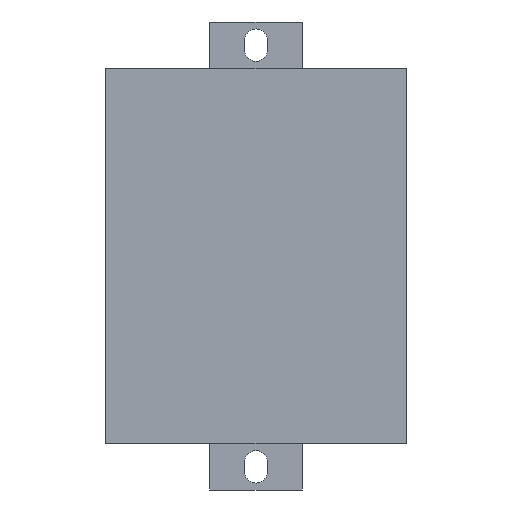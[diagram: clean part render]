
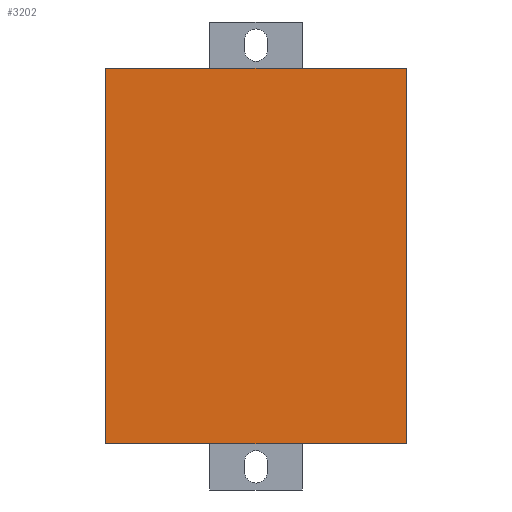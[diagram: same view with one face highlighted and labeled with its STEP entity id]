
A CAD part, front view. The second image highlights one B-rep face of the part: STEP entity #3202.
In plain terms, the highlighted planar face has unit normal (0, -1, 0).
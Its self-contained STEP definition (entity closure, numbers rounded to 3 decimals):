
#56=FACE_OUTER_BOUND('',#222,.T.);
#222=EDGE_LOOP('',(#2179,#2180,#2181,#2182,#2183,#2184,#2185,#2186));
#407=LINE('',#4457,#871);
#408=LINE('',#4459,#872);
#409=LINE('',#4461,#873);
#410=LINE('',#4463,#874);
#411=LINE('',#4465,#875);
#412=LINE('',#4467,#876);
#413=LINE('',#4469,#877);
#414=LINE('',#4470,#878);
#871=VECTOR('',#3644,10.);
#872=VECTOR('',#3645,10.);
#873=VECTOR('',#3646,10.);
#874=VECTOR('',#3647,10.);
#875=VECTOR('',#3648,10.);
#876=VECTOR('',#3649,10.);
#877=VECTOR('',#3650,10.);
#878=VECTOR('',#3651,10.);
#1327=VERTEX_POINT('',#4455);
#1328=VERTEX_POINT('',#4456);
#1329=VERTEX_POINT('',#4458);
#1330=VERTEX_POINT('',#4460);
#1331=VERTEX_POINT('',#4462);
#1332=VERTEX_POINT('',#4464);
#1333=VERTEX_POINT('',#4466);
#1334=VERTEX_POINT('',#4468);
#1659=EDGE_CURVE('',#1327,#1328,#407,.T.);
#1660=EDGE_CURVE('',#1328,#1329,#408,.T.);
#1661=EDGE_CURVE('',#1329,#1330,#409,.T.);
#1662=EDGE_CURVE('',#1330,#1331,#410,.T.);
#1663=EDGE_CURVE('',#1332,#1331,#411,.T.);
#1664=EDGE_CURVE('',#1333,#1332,#412,.T.);
#1665=EDGE_CURVE('',#1334,#1333,#413,.T.);
#1666=EDGE_CURVE('',#1327,#1334,#414,.T.);
#2179=ORIENTED_EDGE('',*,*,#1659,.T.);
#2180=ORIENTED_EDGE('',*,*,#1660,.T.);
#2181=ORIENTED_EDGE('',*,*,#1661,.T.);
#2182=ORIENTED_EDGE('',*,*,#1662,.T.);
#2183=ORIENTED_EDGE('',*,*,#1663,.F.);
#2184=ORIENTED_EDGE('',*,*,#1664,.F.);
#2185=ORIENTED_EDGE('',*,*,#1665,.F.);
#2186=ORIENTED_EDGE('',*,*,#1666,.F.);
#3040=PLANE('',#3397);
#3202=ADVANCED_FACE('',(#56),#3040,.T.);
#3397=AXIS2_PLACEMENT_3D('',#4454,#3642,#3643);
#3642=DIRECTION('center_axis',(0.,-1.,0.));
#3643=DIRECTION('ref_axis',(1.,0.,0.));
#3644=DIRECTION('',(-1.,0.,0.));
#3645=DIRECTION('',(-1.,0.,0.));
#3646=DIRECTION('',(-1.,0.,0.));
#3647=DIRECTION('',(0.,0.,-1.));
#3648=DIRECTION('',(-1.,0.,0.));
#3649=DIRECTION('',(-1.,0.,0.));
#3650=DIRECTION('',(-1.,0.,0.));
#3651=DIRECTION('',(0.,0.,-1.));
#4454=CARTESIAN_POINT('Origin',(-31.,-18.,0.));
#4455=CARTESIAN_POINT('',(32.5,-18.,40.5));
#4456=CARTESIAN_POINT('',(10.,-18.,40.5));
#4457=CARTESIAN_POINT('',(-31.,-18.,40.5));
#4458=CARTESIAN_POINT('',(-10.,-18.,40.5));
#4459=CARTESIAN_POINT('',(-31.,-18.,40.5));
#4460=CARTESIAN_POINT('',(-32.5,-18.,40.5));
#4461=CARTESIAN_POINT('',(-31.,-18.,40.5));
#4462=CARTESIAN_POINT('',(-32.5,-18.,-40.5));
#4463=CARTESIAN_POINT('',(-32.5,-18.,40.5));
#4464=CARTESIAN_POINT('',(-10.,-18.,-40.5));
#4465=CARTESIAN_POINT('',(15.5,-18.,-40.5));
#4466=CARTESIAN_POINT('',(10.,-18.,-40.5));
#4467=CARTESIAN_POINT('',(15.5,-18.,-40.5));
#4468=CARTESIAN_POINT('',(32.5,-18.,-40.5));
#4469=CARTESIAN_POINT('',(15.5,-18.,-40.5));
#4470=CARTESIAN_POINT('',(32.5,-18.,40.5));
